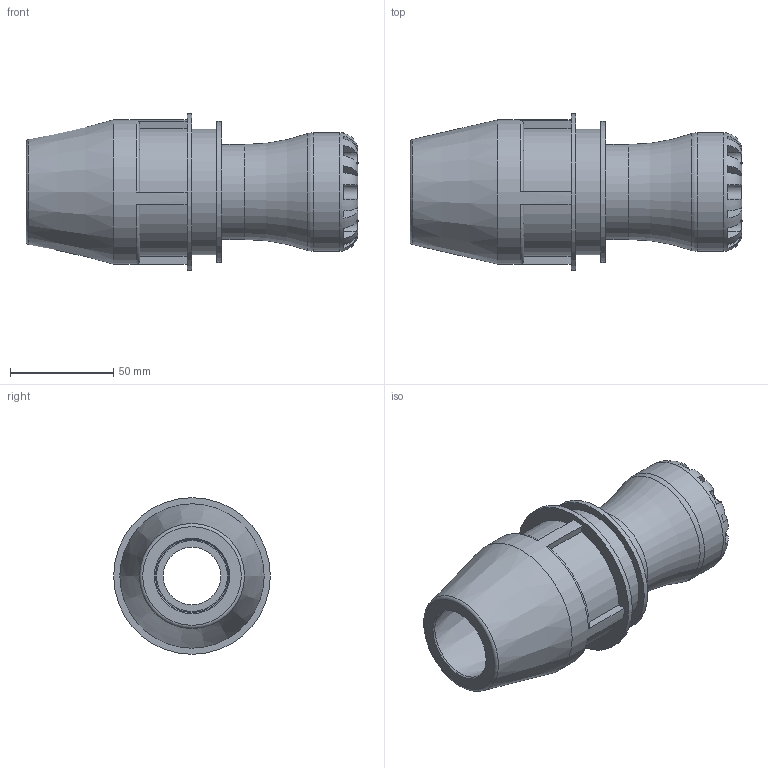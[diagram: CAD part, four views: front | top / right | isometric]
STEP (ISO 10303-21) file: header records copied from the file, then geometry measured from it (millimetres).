
FILE_DESCRIPTION(/* description */ ('PLASSON UNIVERSAL COUPLING 31-35x32 SERIES 1'),/* implementation_level */ '2;1');
FILE_NAME(/* name */ 'C:\Dropbox\KIMPROJECTS-Inventor 2019\99-16-3568-Processing\S1\10017\stp\100170032035.stp',/* time_stamp */ '2023-08-31T10:33:50+03:00',/* author */ ('KIM'),/* organization */ (''),/* preprocessor_version */ 'ST-DEVELOPER v17.2',/* originating_system */ 'Autodesk Inventor 2019',/* authorisation */ '');
FILE_SCHEMA (('AUTOMOTIVE_DESIGN { 1 0 10303 214 3 1 1 }'));
Length unit declared in the file: millimetre
Products named in the file (1): 100170032035
Bounding box: 161 x 76 x 76 mm (x, y, z)
Volume: 262693.8 mm3; surface area: 60667.1 mm2
Topology: 1 solids, 1 shells, 110 faces, 296 edges, 195 vertices
Faces by surface type: plane 69, cylinder 29, torus 8, cone 4
Full cylindrical faces by diameter (mm): 27.9 x1, 32 x1, 34.3 x1, 46.08 x1, 57.6 x1, 60.8 x1, 68.4 x1, 69.92 x1, 76 x1
Entity records: 4094 total; most frequent: CARTESIAN_POINT 1244, DIRECTION 609, ORIENTED_EDGE 592, EDGE_CURVE 296, AXIS2_PLACEMENT_3D 250, VERTEX_POINT 195, CIRCLE 139, EDGE_LOOP 119
